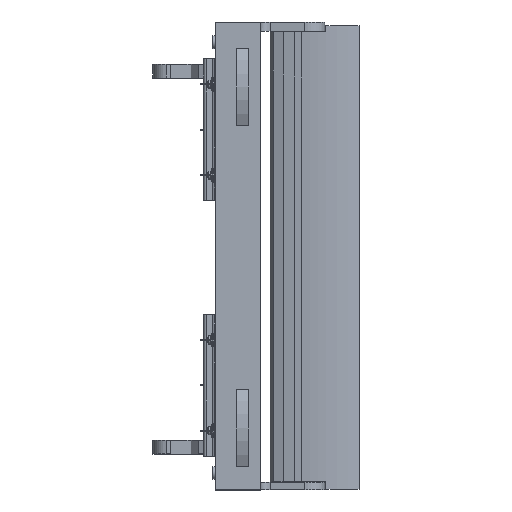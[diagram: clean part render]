
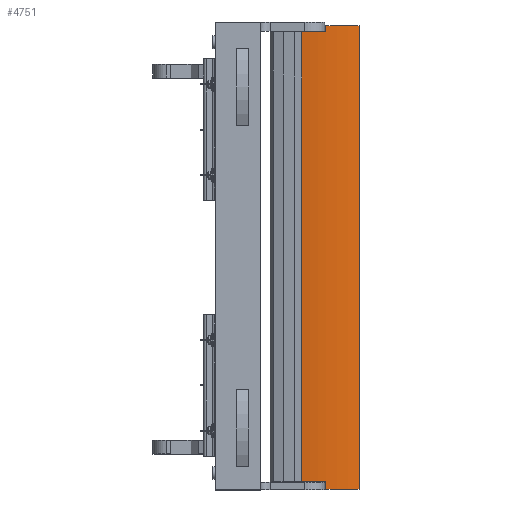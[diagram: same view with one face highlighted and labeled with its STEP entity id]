
A CAD part, top view. The second image highlights one B-rep face of the part: STEP entity #4751.
In plain terms, the highlighted cylindrical face has radius 399.69 mm (diameter 799.381 mm), a partial arc.
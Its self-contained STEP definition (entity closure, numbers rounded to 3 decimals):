
#196=CYLINDRICAL_SURFACE('',#5179,399.69);
#314=CIRCLE('',#5171,399.69);
#315=CIRCLE('',#5173,399.69);
#316=CIRCLE('',#5180,399.69);
#317=CIRCLE('',#5181,399.69);
#863=ORIENTED_EDGE('',*,*,#1993,.T.);
#864=ORIENTED_EDGE('',*,*,#1994,.T.);
#865=ORIENTED_EDGE('',*,*,#1979,.T.);
#866=ORIENTED_EDGE('',*,*,#1980,.F.);
#867=ORIENTED_EDGE('',*,*,#1975,.F.);
#868=ORIENTED_EDGE('',*,*,#1995,.T.);
#869=ORIENTED_EDGE('',*,*,#1996,.T.);
#870=ORIENTED_EDGE('',*,*,#1991,.T.);
#1975=EDGE_CURVE('',#2578,#2579,#314,.T.);
#1979=EDGE_CURVE('',#2580,#2581,#315,.T.);
#1980=EDGE_CURVE('',#2579,#2581,#3042,.T.);
#1991=EDGE_CURVE('',#2589,#2588,#3053,.T.);
#1993=EDGE_CURVE('',#2588,#2590,#316,.T.);
#1994=EDGE_CURVE('',#2590,#2580,#3055,.T.);
#1995=EDGE_CURVE('',#2578,#2591,#3056,.T.);
#1996=EDGE_CURVE('',#2591,#2589,#317,.T.);
#2578=VERTEX_POINT('',#7394);
#2579=VERTEX_POINT('',#7396);
#2580=VERTEX_POINT('',#7400);
#2581=VERTEX_POINT('',#7402);
#2588=VERTEX_POINT('',#7426);
#2589=VERTEX_POINT('',#7428);
#2590=VERTEX_POINT('',#7432);
#2591=VERTEX_POINT('',#7435);
#3042=LINE('',#7405,#3494);
#3053=LINE('',#7427,#3505);
#3055=LINE('',#7433,#3507);
#3056=LINE('',#7434,#3508);
#3494=VECTOR('',#5961,1000.);
#3505=VECTOR('',#5980,1000.);
#3507=VECTOR('',#5986,1000.);
#3508=VECTOR('',#5987,1000.);
#3914=EDGE_LOOP('',(#863,#864,#865,#866,#867,#868,#869,#870));
#4264=FACE_BOUND('',#3914,.T.);
#4751=ADVANCED_FACE('',(#4264),#196,.T.);
#5171=AXIS2_PLACEMENT_3D('',#7395,#5950,#5951);
#5173=AXIS2_PLACEMENT_3D('',#7403,#5957,#5958);
#5179=AXIS2_PLACEMENT_3D('',#7430,#5982,#5983);
#5180=AXIS2_PLACEMENT_3D('',#7431,#5984,#5985);
#5181=AXIS2_PLACEMENT_3D('',#7436,#5988,#5989);
#5950=DIRECTION('',(0.,-1.,0.));
#5951=DIRECTION('',(-1.,0.,0.));
#5957=DIRECTION('',(0.,-1.,0.));
#5958=DIRECTION('',(-1.,0.,0.));
#5961=DIRECTION('',(0.,1.,0.));
#5980=DIRECTION('',(0.,1.,0.));
#5982=DIRECTION('',(0.,1.,0.));
#5983=DIRECTION('',(0.,0.,1.));
#5984=DIRECTION('',(0.,-1.,0.));
#5985=DIRECTION('',(0.,0.,-1.));
#5986=DIRECTION('',(0.,1.,0.));
#5987=DIRECTION('',(0.,1.,0.));
#5988=DIRECTION('',(0.,1.,0.));
#5989=DIRECTION('',(0.,0.,1.));
#7394=CARTESIAN_POINT('',(70.587,-500.,40.));
#7395=CARTESIAN_POINT('',(-329.104,-500.,40.348));
#7396=CARTESIAN_POINT('',(64.221,-500.,111.4));
#7400=CARTESIAN_POINT('',(70.587,500.,40.));
#7402=CARTESIAN_POINT('',(64.221,500.,111.4));
#7403=CARTESIAN_POINT('',(-329.104,500.,40.348));
#7405=CARTESIAN_POINT('',(64.221,-500.,111.4));
#7426=CARTESIAN_POINT('',(67.068,484.,-12.568));
#7427=CARTESIAN_POINT('',(67.068,-500.,-12.568));
#7428=CARTESIAN_POINT('',(67.068,-487.,-12.568));
#7430=CARTESIAN_POINT('',(-329.104,-500.,40.348));
#7431=CARTESIAN_POINT('',(-329.104,484.,40.348));
#7432=CARTESIAN_POINT('',(70.587,484.,40.));
#7433=CARTESIAN_POINT('',(70.587,-500.,40.));
#7434=CARTESIAN_POINT('',(70.587,-500.,40.));
#7435=CARTESIAN_POINT('',(70.587,-487.,40.));
#7436=CARTESIAN_POINT('',(-329.104,-487.,40.348));
